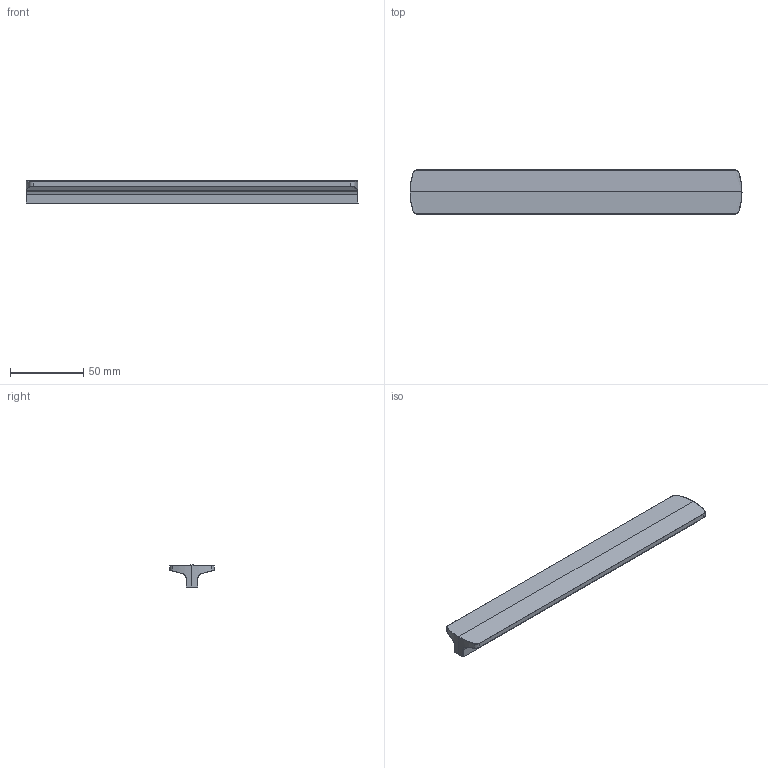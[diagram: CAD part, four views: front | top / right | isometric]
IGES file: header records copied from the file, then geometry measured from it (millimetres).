
Start section: C
Global section: file name: 8303-226.igs; native system: By Siemens PLM Incorporated; preprocessor: XPlus GENERIC/IGES 16.0.42; author: Author; organization: Title; date: 20210505.074110; units: millimetre
Bounding box: 226 x 30 x 15 mm (x, y, z)
Surface area: 19150 mm2 (no closed solid volume)
Topology: 0 solids, 0 shells, 48 faces, 224 edges, 224 vertices
Faces by surface type: bspline 48
